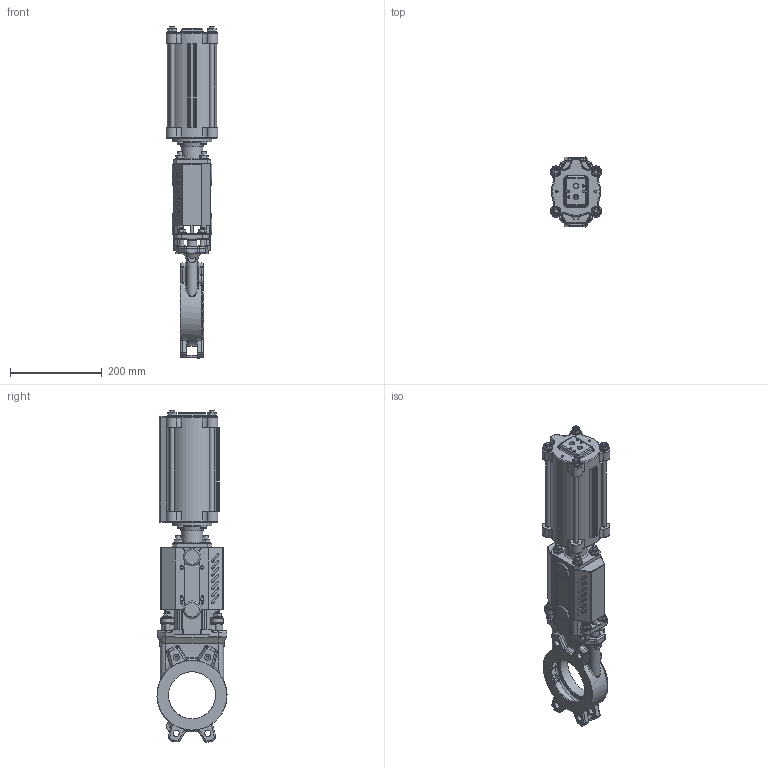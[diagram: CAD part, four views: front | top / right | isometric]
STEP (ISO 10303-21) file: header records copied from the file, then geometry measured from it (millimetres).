
FILE_DESCRIPTION(/* description */ (''),/* implementation_level */ '2;1');
FILE_NAME(/* name */ 'F:\Emir\3D-block special\MV VALVE\PNEUMATIC ACTUATOR\MV-DN100-PN10-FRSC100-115.stp',/* time_stamp */ '2018-02-16T08:42:07+01:00',/* author */ ('emimus'),/* organization */ (''),/* preprocessor_version */ 'ST-DEVELOPER v17',/* originating_system */ 'Autodesk Inventor 2018',/* authorisation */ '');
FILE_SCHEMA (('CONFIG_CONTROL_DESIGN'));
Products named in the file (1): MV-DN100-PN10-FRSC100-115
Bounding box: 112.17 x 152.92 x 725 mm (x, y, z)
Volume: 2289070.2 mm3; surface area: 813710.4 mm2
Topology: 3 solids, 3 shells, 2375 faces, 5921 edges, 3621 vertices
Faces by surface type: plane 819, cylinder 722, cone 247, torus 244, bspline 240, sphere 103
Full cylindrical faces by diameter (mm): 3 x10, 4 x4, 4.134 x4, 4.2 x16, 4.5 x4, 4.917 x4, 6 x4, 6.647 x2, 8 x7, 8.376 x8, 10 x28, 10.106 x1, 10.5 x12, 11 x8, 11.445 x2, 13 x4, 13.835 x8, 14 x1, 14.376 x1, 15 x5, 16 x2, 20 x13, 20.15 x2, 22 x1, 24 x5, 26 x1, 26.4 x1, 28 x4, 35 x1, 40 x1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
Entity records: 78389 total; most frequent: CARTESIAN_POINT 22354, DIRECTION 12095, ORIENTED_EDGE 11784, EDGE_CURVE 5892, AXIS2_PLACEMENT_3D 4964, VERTEX_POINT 3621, CIRCLE 2644, EDGE_LOOP 2621
